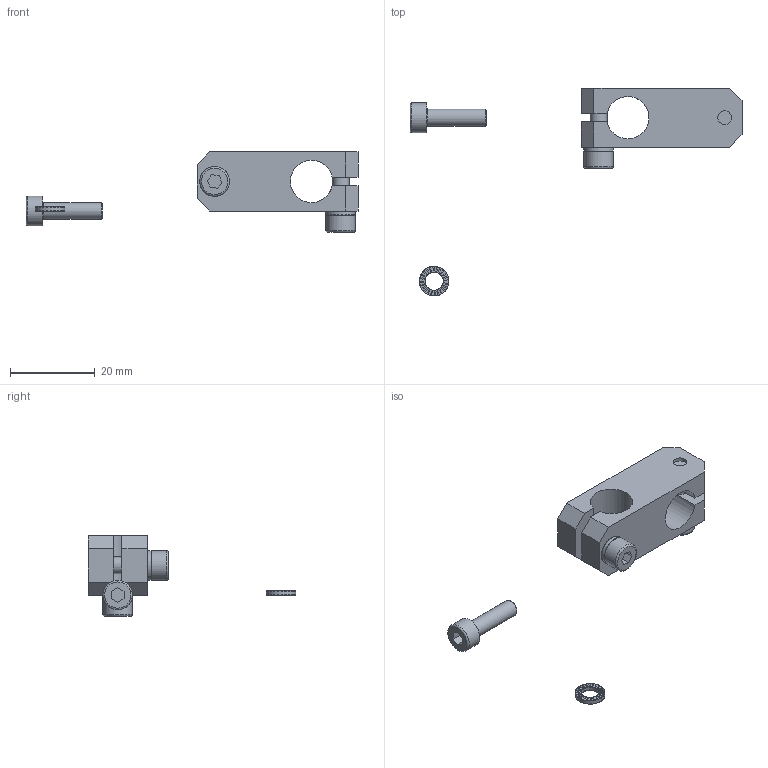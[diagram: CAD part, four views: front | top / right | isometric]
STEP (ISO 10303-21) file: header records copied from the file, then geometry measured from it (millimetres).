
FILE_DESCRIPTION( ( 'STEP AP214' ), '1' );
FILE_NAME( 'C:/Users/Segreteria/Desktop/CA.KKS.10.10.stp', '2014-07-18T06:05:50', ( ' ' ), ( ' ' ), 'XStep 1.0', ' ', ' ' );
FILE_SCHEMA( ( 'CONFIG_CONTROL_DESIGN) ( )' ) );
Length unit declared in the file: metre
Products named in the file (6): Assem1; KKS.10.10; R.4.SCH; V-tcei M  4 x 14
Bounding box: 78.5 x 49.14 x 19 mm (x, y, z)
Volume: 9941.6 mm3; surface area: 8627.5 mm2
Topology: 6 solids, 10 shells, 888 faces, 2600 edges, 1724 vertices
Faces by surface type: plane 848, cylinder 28, torus 8, cone 4
Full cylindrical faces by diameter (mm): 3.242 x4, 4 x4, 4.2 x4, 4.3 x4, 7 x8
Entity records: 16341 total; most frequent: CARTESIAN_POINT 2598, DIRECTION 2582, ORIENTED_EDGE 2548, EDGE_CURVE 1274, LINE 862, VECTOR 862, AXIS2_PLACEMENT_3D 860, VERTEX_POINT 856
